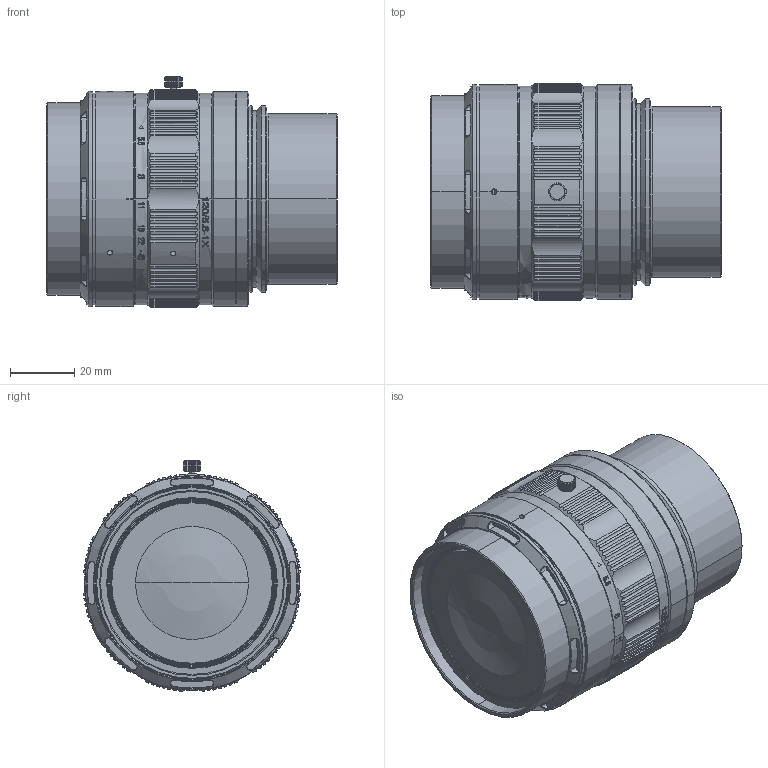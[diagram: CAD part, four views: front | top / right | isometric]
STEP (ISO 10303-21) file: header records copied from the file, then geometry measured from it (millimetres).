
FILE_DESCRIPTION((''),'2;1');
FILE_NAME('OPT-VHK120-5_8-1_0X-V1_0','2024-06-18T19:51:01',('admin'),(''),'CREO PARAMETRIC BY PTC INC, 2020354','CREO PARAMETRIC BY PTC INC, 2020354','');
FILE_SCHEMA(('AUTOMOTIVE_DESIGN { 1 0 10303 214 1 1 1 1 }'));
Products named in the file (1): OPT-VHK120-5_8-1_0X-V1_0
Bounding box: 90.4 x 67.69 x 72.04 mm (x, y, z)
Volume: 236680.4 mm3; surface area: 54982.4 mm2
Topology: 1 solids, 16 shells, 1230 faces, 3336 edges, 2176 vertices
Faces by surface type: cylinder 432, bspline 289, cone 250, plane 230, extrusion 17, sphere 6, torus 6
Entity records: 54659 total; most frequent: CARTESIAN_POINT 22443, ORIENTED_EDGE 6632, DIRECTION 5300, EDGE_CURVE 3316, VERTEX_POINT 2176, AXIS2_PLACEMENT_3D 2056, EDGE_LOOP 1338, FACE_OUTER_BOUND 1230
